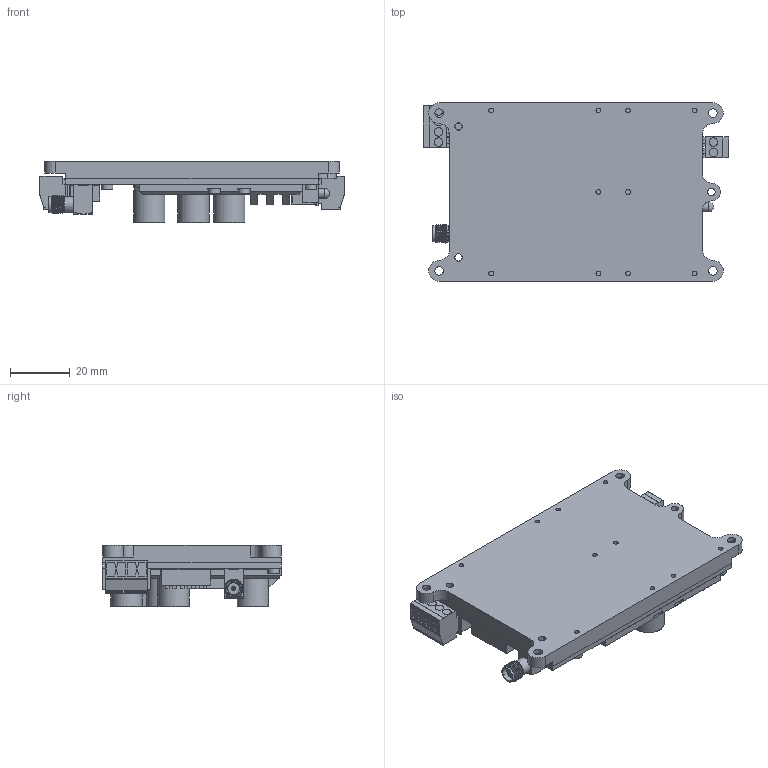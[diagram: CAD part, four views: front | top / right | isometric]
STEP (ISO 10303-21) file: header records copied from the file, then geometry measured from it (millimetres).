
FILE_DESCRIPTION(/* description */ ('STEP AP242','CAx-IF Rec.Pracs.---Representation and Presentation of Product Manufacturing Information (PMI)---4.0---2014-10-13','CAx-IF Rec.Pracs.---3D Tessellated Geometry---0.4---2014-09-14','2;1'),/* implementation_level */ '2;1');
FILE_NAME(/* name */ '656da63025220b32195a61d3',/* time_stamp */ '2023-12-04T10:13:21Z',/* author */ (''),/* organization */ (''),/* preprocessor_version */ 'ST-DEVELOPER v19.4',/* originating_system */ ' ',/* authorisation */ ' ');
FILE_SCHEMA (('AP242_MANAGED_MODEL_BASED_3D_ENGINEERING_MIM_LF { 1 0 10303 442 1 1 4 }'));
Products named in the file (979): HV100-ASSEMBLY; C1210_8; R0603_64; R0603_33; C1210_21; R0603_32; wson6; R0603_122; R0603_79; R0603_78; C1210_30; C1210_23; R0603_124; R0603_35; C0603_10; C1210_39; R0603_46; User_Library-POWERDI-123_4_1_5; C1210_11; R0603_7; C1210_51; C0603_8; C0603_23; C0603_13; C0603_12; R0603_131; R0603_135; pin; R0603_74; R0603_132; R0603_130; R0603_102; C0603_1; SOP-4; R0603_140; screw; CAP-TERMNL_1; R0603_53; C1210_45; SOT-23-3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
Assembly tree (986 placements, depth 2):
  HV100-ASSEMBLY
    C1210_8
    R0603_64
    R0603_33
    C1210_21
    R0603_32
    wson6
    R0603_122
    R0603_79
    R0603_78
    C1210_8
    C1210_30
    C1210_23
    R0603_124
    R0603_35
    C0603_10
    C1210_39
    R0603_46
    User_Library-POWERDI-123_4_1_5
    C1210_11
    R0603_7
    C1210_51
    C0603_8
    C0603_23
    C0603_13
    C0603_12
    R0603_131
    wson6
    R0603_135
    pin
    R0603_74
    R0603_46
    R0603_132
    R0603_130
    R0603_102
    C0603_1
    R0603_33
    SOP-4
    R0603_140
    screw
    CAP-TERMNL_1
    R0603_53
    C1210_45
    SOT-23-3
    C1210_3
    KEMET_ELECTROLYTIC_10x12mm_1
    KEMET_ELECTROLYTIC_10x12mm_3
    Coilcraft-MSS1038_1
    R0603_76
    L0805_4
    R0603_129
    R0805_2
    R0603_66
    R0603_5
    C0603_18
    R0603_48
    C1210_52
    C1210_48
    R0603_37
    C1210_1
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Bounding box: 102.8 x 60 x 20.77 mm (x, y, z)
Volume: 42817.9 mm3; surface area: 55275.8 mm2
Topology: 986 solids, 986 shells, 9970 faces, 22664 edges, 14863 vertices
Faces by surface type: plane 8405, cylinder 1254, torus 105, sphere 95, cone 71, bspline 40
Full cylindrical faces by diameter (mm): 0.013 x2, 0.18 x1, 0.207 x1, 0.25 x5, 0.5 x1, 0.65 x10, 0.75 x10, 0.8 x12, 0.9 x3, 0.97 x1, 1 x4, 1.2 x12, 1.27 x1, 1.28 x1, 1.32 x2, 1.4 x4, 1.472 x1, 1.5 x1, 1.6 x10, 2 x16, 2.4 x16, 2.5 x3, 2.8 x6, 2.9 x16, 3.4 x1, 3.5 x2, 3.8 x10, 3.98 x1, 4.06 x3, 4.4 x2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
Entity records: 299952 total; most frequent: CARTESIAN_POINT 51236, DIRECTION 45686, ORIENTED_EDGE 43846, EDGE_CURVE 21923, LINE 19080, VECTOR 19080, VERTEX_POINT 14528, AXIS2_PLACEMENT_3D 13303
